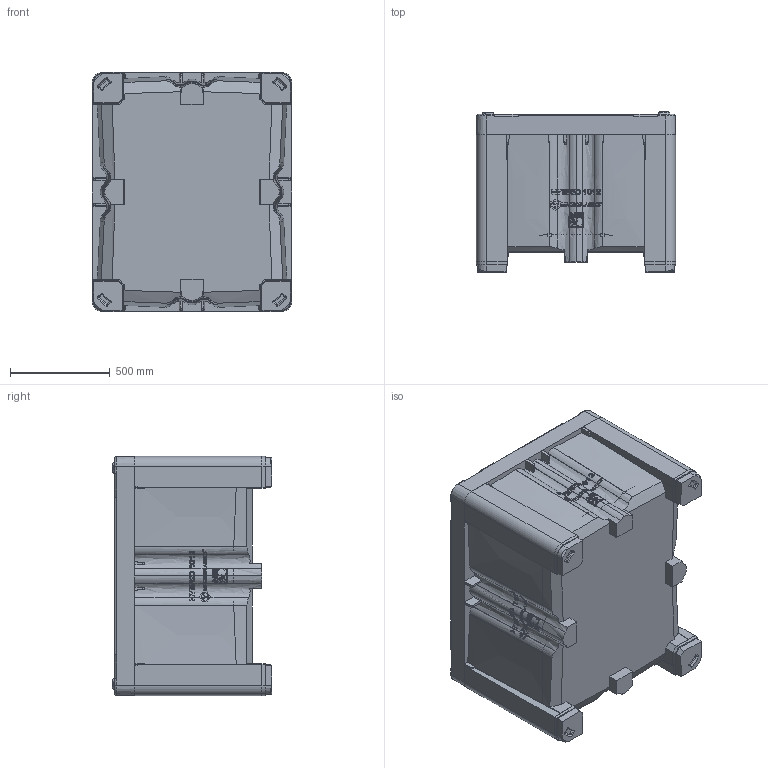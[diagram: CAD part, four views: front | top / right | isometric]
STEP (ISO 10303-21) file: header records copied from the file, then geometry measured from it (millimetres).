
FILE_DESCRIPTION (( 'STEP AP214' ), '1' );
FILE_NAME ('1110xxxxxxxx 1012-790 Hybrid Block PadFoot.STEP', '2018-08-24T21:15:13', ( '' ), ( '' ), 'SwSTEP 2.0', 'SolidWorks 2018', '' );
FILE_SCHEMA (( 'AUTOMOTIVE_DESIGN' ));
Length unit declared in the file: millimetre
Products named in the file (1): 1110xxxxxxxx 1012-790 Hybrid Block PadFoot
Bounding box: 1000 x 802.5 x 1200 mm (x, y, z)
Volume: 107494221.7 mm3; surface area: 9571313.1 mm2
Topology: 9 solids, 9 shells, 6119 faces, 16778 edges, 11155 vertices
Faces by surface type: plane 2993, bspline 2632, cylinder 464, sphere 18, cone 8, torus 4
Entity records: 331247 total; most frequent: CARTESIAN_POINT 202956, ORIENTED_EDGE 33508, EDGE_CURVE 16754, DIRECTION 14190, VERTEX_POINT 11151, B_SPLINE_CURVE_WITH_KNOTS 9644, VECTOR 6894, LINE 6894
